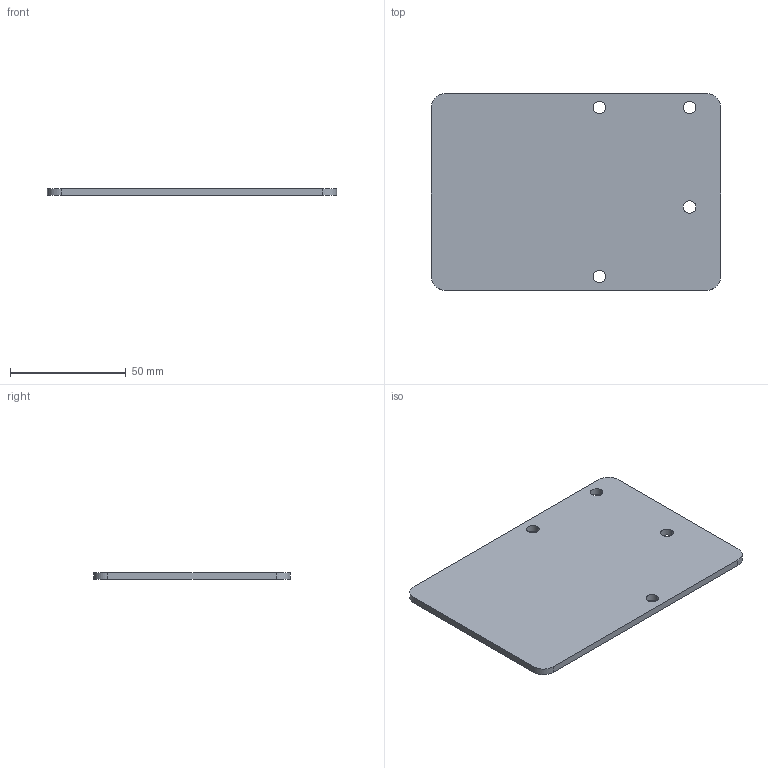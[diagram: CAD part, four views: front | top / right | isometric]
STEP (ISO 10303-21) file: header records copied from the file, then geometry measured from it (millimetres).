
FILE_DESCRIPTION (( 'STEP AP214' ), '1' );
FILE_NAME ('09354.STEP', '2021-08-12T06:16:55', ( '' ), ( '' ), 'SwSTEP 2.0', 'SolidWorks 2016', '' );
FILE_SCHEMA (( 'AUTOMOTIVE_DESIGN' ));
Length unit declared in the file: millimetre
Products named in the file (1): 09354
Bounding box: 125 x 85 x 3 mm (x, y, z)
Volume: 31507.5 mm3; surface area: 22437.6 mm2
Topology: 1 solids, 1 shells, 18 faces, 48 edges, 32 vertices
Faces by surface type: cylinder 12, plane 6
Entity records: 626 total; most frequent: DIRECTION 110, CARTESIAN_POINT 99, ORIENTED_EDGE 96, EDGE_CURVE 48, AXIS2_PLACEMENT_3D 43, VERTEX_POINT 32, EDGE_LOOP 26, LINE 24
